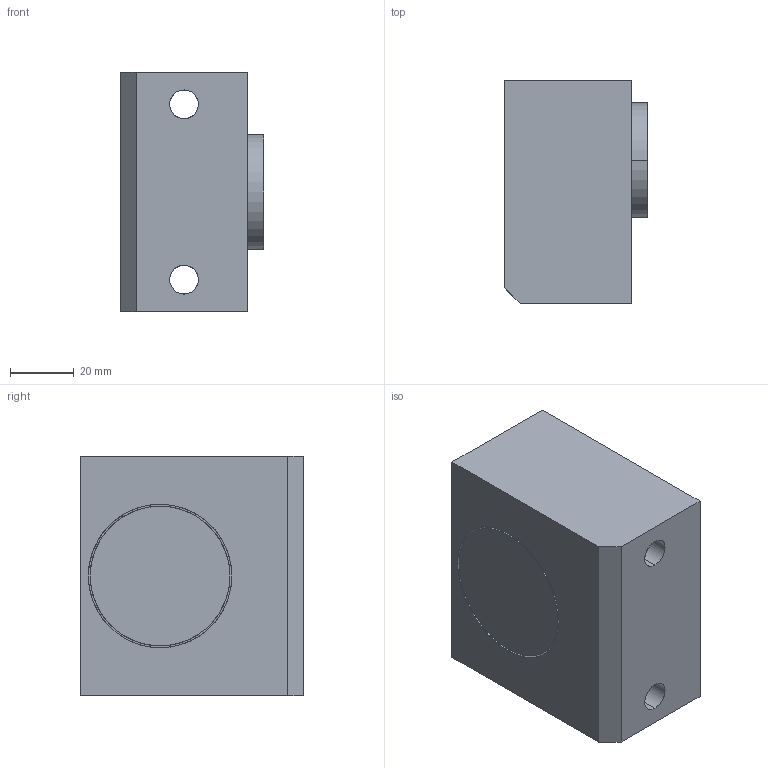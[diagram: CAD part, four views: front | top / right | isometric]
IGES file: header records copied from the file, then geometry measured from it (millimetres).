
Start section: START RECORD GO HERE.
Global section: file name: 751-040075.igs; native system: DASSAULT SYSTEMES CATIA V5 R20 - www.3ds.com; preprocessor: CATIA Version 5 Release 20 ; author: Utente; organization: NB04-ASUS; date: 20200410.202449; units: millimetre
Bounding box: 45 x 70 x 75 mm (x, y, z)
Surface area: 36617.7 mm2 (no closed solid volume)
Topology: 0 solids, 0 shells, 29 faces, 126 edges, 126 vertices
Faces by surface type: revolution 16, extrusion 13
